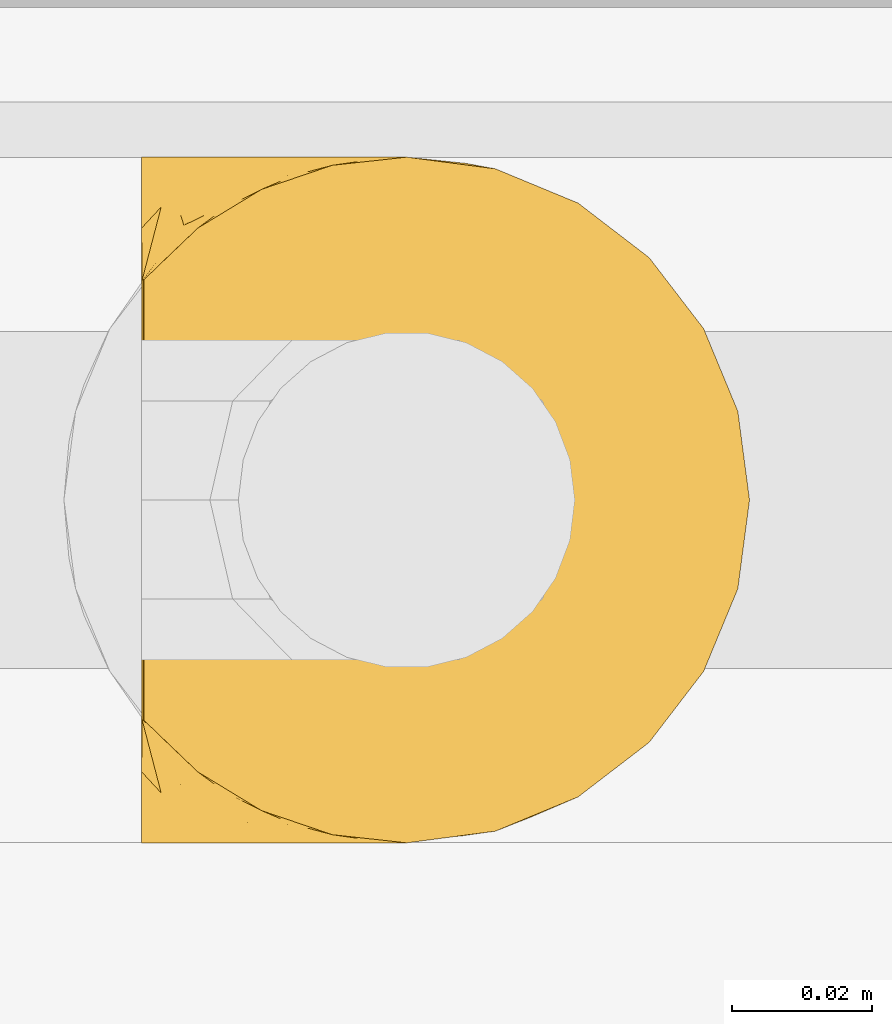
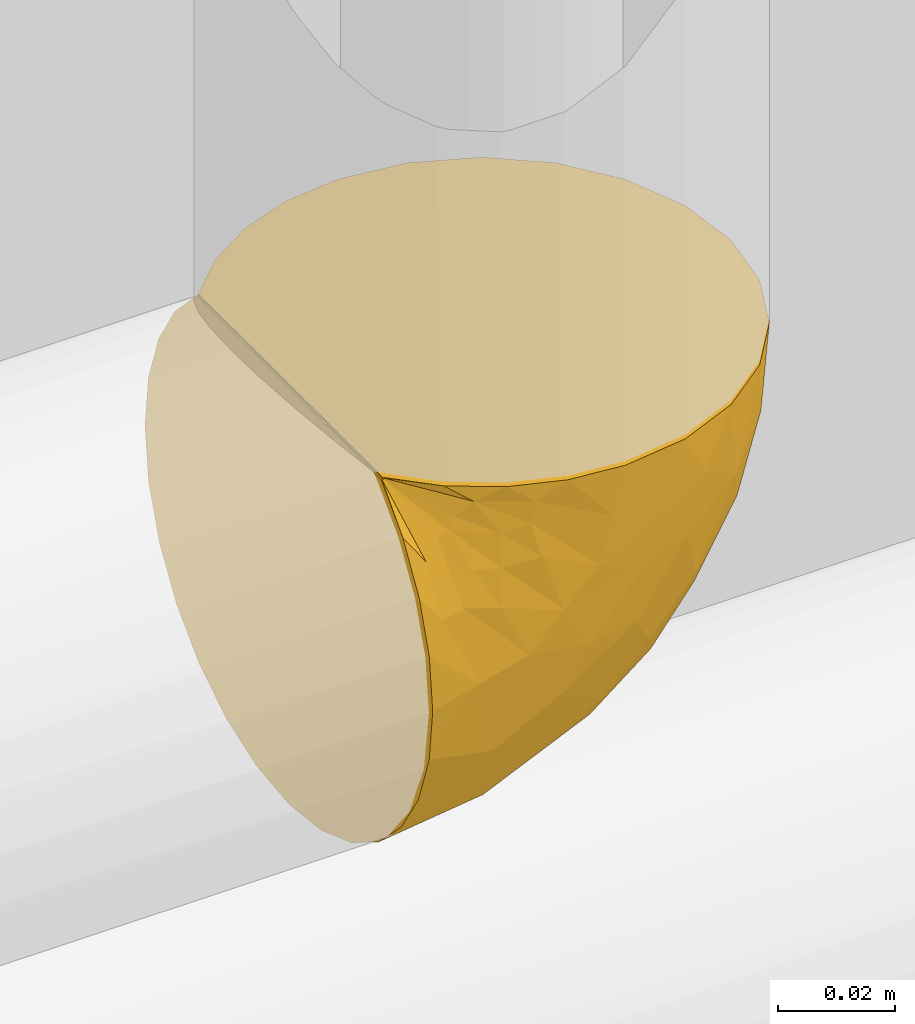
# One storey, part 58 of 94: 1 covering.
"""IFC2X3 building model written with IfcOpenShell, lengths in millimetres."""

from ifc_helpers import new_model, entity, si_unit, converted_unit, derived_unit, direction, frame, origin, place, context, subcontext, project, spatial, faceted_brep, material, element, save


model = new_model("IFC2X3")

# Units and contexts
model_context = context("Model", 3, precision=0.01, world=origin(), true_north=direction((6.123031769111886e-17, 1.0)))
body_context = subcontext(model_context, "Body", "Model", "MODEL_VIEW")
ifc_project = project(units=[si_unit("LENGTHUNIT", "METRE", prefix="MILLI"), si_unit("AREAUNIT", "SQUARE_METRE"), si_unit("VOLUMEUNIT", "CUBIC_METRE"), converted_unit("PLANEANGLEUNIT", "DEGREE", entity("IfcRatioMeasure", 0.017453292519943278), si_unit("PLANEANGLEUNIT", "RADIAN"), dimensions=[0, 0, 0, 0, 0, 0, 0]), si_unit("MASSUNIT", "GRAM", prefix="KILO"), derived_unit("MASSDENSITYUNIT", [(si_unit("MASSUNIT", "GRAM", prefix="KILO"), 1), (si_unit("LENGTHUNIT", "METRE"), -3)]), derived_unit("IONCONCENTRATIONUNIT", [(si_unit("MASSUNIT", "GRAM", prefix="KILO"), 1), (si_unit("LENGTHUNIT", "METRE"), -3)]), derived_unit("MOMENTOFINERTIAUNIT", [(si_unit("LENGTHUNIT", "METRE"), 4)]), si_unit("TIMEUNIT", "SECOND"), si_unit("FREQUENCYUNIT", "HERTZ"), si_unit("THERMODYNAMICTEMPERATUREUNIT", "DEGREE_CELSIUS"), derived_unit("THERMALTRANSMITTANCEUNIT", [(si_unit("MASSUNIT", "GRAM", prefix="KILO"), 1), (si_unit("THERMODYNAMICTEMPERATUREUNIT", "KELVIN"), -1), (si_unit("TIMEUNIT", "SECOND"), -3)]), derived_unit("THERMALCONDUCTANCEUNIT", [(si_unit("MASSUNIT", "GRAM", prefix="KILO"), 1), (si_unit("THERMODYNAMICTEMPERATUREUNIT", "KELVIN"), -1), (si_unit("TIMEUNIT", "SECOND"), -3), (si_unit("LENGTHUNIT", "METRE"), 1)]), derived_unit("VOLUMETRICFLOWRATEUNIT", [(si_unit("LENGTHUNIT", "METRE"), 3), (si_unit("TIMEUNIT", "SECOND"), -1)]), derived_unit("MASSFLOWRATEUNIT", [(si_unit("MASSUNIT", "GRAM", prefix="KILO"), 1), (si_unit("TIMEUNIT", "SECOND"), -1)]), derived_unit("ROTATIONALFREQUENCYUNIT", [(si_unit("TIMEUNIT", "SECOND"), -1)]), si_unit("ELECTRICCURRENTUNIT", "AMPERE"), si_unit("ELECTRICVOLTAGEUNIT", "VOLT"), si_unit("POWERUNIT", "WATT"), si_unit("FORCEUNIT", "NEWTON", prefix="KILO"), si_unit("ILLUMINANCEUNIT", "LUX"), si_unit("LUMINOUSFLUXUNIT", "LUMEN"), si_unit("LUMINOUSINTENSITYUNIT", "CANDELA"), derived_unit("USERDEFINED", [(si_unit("MASSUNIT", "GRAM", prefix="KILO"), -1), (si_unit("LENGTHUNIT", "METRE"), -2), (si_unit("TIMEUNIT", "SECOND"), 3), (si_unit("LUMINOUSFLUXUNIT", "LUMEN"), 1)]), derived_unit("USERDEFINED", [(si_unit("MASSUNIT", "GRAM", prefix="KILO"), 1), (si_unit("TIMEUNIT", "SECOND"), -3), (si_unit("LENGTHUNIT", "METRE"), 3), (si_unit("ELECTRICCURRENTUNIT", "AMPERE"), -2)]), derived_unit("SOUNDPOWERUNIT", [(si_unit("MASSUNIT", "GRAM", prefix="KILO"), 1), (si_unit("TIMEUNIT", "SECOND"), -3), (si_unit("LENGTHUNIT", "METRE"), 2)]), derived_unit("SOUNDPRESSUREUNIT", [(si_unit("MASSUNIT", "GRAM", prefix="KILO"), 1), (si_unit("LENGTHUNIT", "METRE"), -1), (si_unit("TIMEUNIT", "SECOND"), -2)]), derived_unit("LINEARVELOCITYUNIT", [(si_unit("LENGTHUNIT", "METRE"), 1), (si_unit("TIMEUNIT", "SECOND"), -1)]), si_unit("PRESSUREUNIT", "PASCAL"), derived_unit("USERDEFINED", [(si_unit("MASSUNIT", "GRAM", prefix="KILO"), 1), (si_unit("LENGTHUNIT", "METRE"), -2), (si_unit("TIMEUNIT", "SECOND"), -2)]), derived_unit("LINEARFORCEUNIT", [(si_unit("MASSUNIT", "GRAM", prefix="KILO"), 1), (si_unit("TIMEUNIT", "SECOND"), -2)]), derived_unit("PLANARFORCEUNIT", [(si_unit("MASSUNIT", "GRAM", prefix="KILO"), 1), (si_unit("LENGTHUNIT", "METRE"), -1), (si_unit("TIMEUNIT", "SECOND"), -2)]), derived_unit("SPECIFICHEATCAPACITYUNIT", [(si_unit("THERMODYNAMICTEMPERATUREUNIT", "KELVIN"), -1), (si_unit("LENGTHUNIT", "METRE"), 2), (si_unit("TIMEUNIT", "SECOND"), -2)]), derived_unit("HEATINGVALUEUNIT", [(si_unit("LENGTHUNIT", "METRE"), 2), (si_unit("TIMEUNIT", "SECOND"), -2)]), derived_unit("VAPORPERMEABILITYUNIT", [(si_unit("LENGTHUNIT", "METRE"), -1), (si_unit("TIMEUNIT", "SECOND"), 1)]), derived_unit("DYNAMICVISCOSITYUNIT", [(si_unit("MASSUNIT", "GRAM", prefix="KILO"), 1), (si_unit("TIMEUNIT", "SECOND"), -1), (si_unit("LENGTHUNIT", "METRE"), -1)]), derived_unit("THERMALEXPANSIONCOEFFICIENTUNIT", [(si_unit("THERMODYNAMICTEMPERATUREUNIT", "KELVIN"), -1)]), derived_unit("MODULUSOFELASTICITYUNIT", [(si_unit("MASSUNIT", "GRAM", prefix="KILO"), 1), (si_unit("LENGTHUNIT", "METRE"), -1), (si_unit("TIMEUNIT", "SECOND"), -2)]), derived_unit("ISOTHERMALMOISTURECAPACITYUNIT", [(si_unit("LENGTHUNIT", "METRE"), 3), (si_unit("MASSUNIT", "GRAM", prefix="KILO"), -1)]), derived_unit("MOISTUREDIFFUSIVITYUNIT", [(si_unit("TIMEUNIT", "SECOND"), -1), (si_unit("LENGTHUNIT", "METRE"), 2)])], contexts=[model_context])

# Site, building, storey
site_placement = place(None, origin())
site = spatial("IfcSite", under=ifc_project, at=site_placement, Name="Default", CompositionType="ELEMENT")
building_placement = place(site_placement, origin())
building = spatial("IfcBuilding", under=site, at=building_placement, CompositionType="ELEMENT")
storey_placement = place(building_placement, origin())
storey = spatial("IfcBuildingStorey", under=building, at=storey_placement, Name="Niveau 0", CompositionType="ELEMENT", Elevation=0.0)

# Covering
ifc_material = material(Name="Isolation - Laine minérale")
covering_placement = place(storey_placement, frame((-6348.767585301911, 9976.100352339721, 2699.254727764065)))
element("IfcCovering", 1, at=covering_placement, inside=storey, material=ifc_material, Name="Isolation des canalisations:Laine minérale", ObjectType="Isolation des canalisations:Laine minérale", PredefinedType="INSULATION", context=body_context, shape_type="Brep", body=[
    faceted_brep([(1.5952722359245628, 95.02415814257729, 29.41213456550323), (1.5952722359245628, 89.1663101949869, 20.0932520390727), (1.5952722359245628, 81.38263886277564, 12.312548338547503), (1.5952722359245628, 72.06354573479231, 6.459227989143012), (1.5952722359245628, 61.67593083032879, 2.826140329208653), (1.5952722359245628, 50.74527223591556, 1.5952722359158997), (1.5952722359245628, 39.80290363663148, 2.828812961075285), (1.5952722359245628, 29.412134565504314, 6.466386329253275), (1.5952722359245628, 20.093252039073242, 12.324234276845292), (1.5952722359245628, 12.312548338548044, 20.10790560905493), (1.5952722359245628, 6.459227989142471, 29.426998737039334), (1.5952722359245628, 2.826140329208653, 39.814613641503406), (1.5952722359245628, 1.5952722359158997, 50.7452722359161), (1.5952722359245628, 2.765001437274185, 61.40435822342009), (1.5952722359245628, 6.216868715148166, 71.55257335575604), (1.5952722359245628, 11.785042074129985, 80.70896636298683), (1.5952722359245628, 19.19437336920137, 88.43165280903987), (1.5952722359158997, 21.638642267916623, 88.43165280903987), (1.5952722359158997, 23.415694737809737, 88.43165280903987), (1.5952722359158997, 25.192747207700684, 88.43165280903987), (1.5952722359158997, 26.692340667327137, 88.43165280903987), (1.5952722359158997, 28.191934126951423, 88.43165280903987), (1.5952722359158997, 31.191121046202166, 88.43165280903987), (1.5952722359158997, 34.19030796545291, 88.43165280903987), (1.5952722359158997, 37.18949488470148, 88.43165280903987), (1.5952722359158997, 40.18868180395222, 88.43165280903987), (1.5952722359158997, 41.68827526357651, 88.43165280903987), (1.5952722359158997, 43.1878687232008, 88.43165280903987), (1.5952722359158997, 45.63213762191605, 88.43165280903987), (1.5952722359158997, 48.07640652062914, 88.43165280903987), (1.5952722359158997, 50.5206754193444, 88.43165280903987), (1.5952722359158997, 52.96494431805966, 88.43165280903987), (1.5952722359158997, 55.40921321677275, 88.43165280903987), (1.5952722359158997, 57.853482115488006, 88.43165280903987), (1.5952722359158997, 60.2977510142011, 88.43165280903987), (1.5952722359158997, 62.742019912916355, 88.43165280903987), (1.5952722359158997, 65.18628881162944, 88.43165280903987), (1.5952722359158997, 67.6305577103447, 88.43165280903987), (1.5952722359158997, 70.0748266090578, 88.43165280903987), (1.5952722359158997, 72.51909550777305, 88.43165280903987), (1.5952722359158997, 74.96336440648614, 88.43165280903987), (1.5952722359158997, 77.4076333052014, 88.43165280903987), (1.5952722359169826, 79.85190220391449, 88.43165280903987), (1.5952722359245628, 82.29617110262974, 88.43165280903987), (1.5952722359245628, 89.71827412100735, 80.6923526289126), (1.5952722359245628, 95.28368576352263, 71.53113811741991), (1.5952722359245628, 98.73008326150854, 61.38390047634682), (1.5952722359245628, 99.89527223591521, 50.74527223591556), (1.5952722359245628, 98.66173151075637, 39.80290363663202), (9.641963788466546, 11.777056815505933, 88.74527223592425), (18.798688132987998, 6.211862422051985, 88.74527223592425), (28.94385431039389, 2.7632985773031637, 88.74527223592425), (39.59527223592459, 1.5952722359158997, 88.74527223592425), (52.31622830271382, 3.270017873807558, 88.74527223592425), (64.17027223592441, 8.18012363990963, 88.74527223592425), (74.34957053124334, 15.990973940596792, 88.74527223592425), (82.16042083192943, 26.170272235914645, 88.74527223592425), (87.07052659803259, 38.02431616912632, 88.74527223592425), (88.74527223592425, 50.74527223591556, 88.74527223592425), (87.07052659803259, 63.46622830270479, 88.74527223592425), (82.16042083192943, 75.3202722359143, 88.74527223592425), (74.34957053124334, 85.49957053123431, 88.74527223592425), (64.17027223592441, 93.31042083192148, 88.74527223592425), (52.31622830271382, 98.22052659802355, 88.74527223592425), (39.59527223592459, 99.89527223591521, 88.74527223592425), (28.94385431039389, 98.72724589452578, 88.74527223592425), (18.798688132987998, 95.27868204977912, 88.74527223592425), (9.641963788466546, 89.71348765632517, 88.74527223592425), (1.908891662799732, 82.29617110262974, 88.74527223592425), (1.908891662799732, 79.85190220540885, 88.74527223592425), (1.908891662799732, 78.3523087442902, 88.74527223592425), (1.908891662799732, 76.3803775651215, 88.74527223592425), (1.908891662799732, 74.40844638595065, 88.74527223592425), (1.908891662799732, 72.43651520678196, 88.74527223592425), (1.908891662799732, 70.46458402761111, 88.74527223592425), (1.908891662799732, 68.49265284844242, 88.74527223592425), (1.908891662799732, 66.52072166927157, 88.74527223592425), (1.908891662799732, 64.54879049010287, 88.74527223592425), (1.908891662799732, 62.57685931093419, 88.74527223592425), (1.908891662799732, 60.60492813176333, 88.74527223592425), (1.908891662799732, 58.632996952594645, 88.74527223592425), (1.908891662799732, 56.661065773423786, 88.74527223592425), (1.908891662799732, 54.6891345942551, 88.74527223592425), (1.908891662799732, 52.71720341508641, 88.74527223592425), (1.908891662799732, 50.74527223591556, 88.74527223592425), (1.908891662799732, 48.773341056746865, 88.74527223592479), (1.908891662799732, 46.80140987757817, 88.74527223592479), (1.908891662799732, 44.82947869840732, 88.74527223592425), (1.908891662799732, 42.85754751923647, 88.74527223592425), (1.908891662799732, 40.88561634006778, 88.74527223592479), (1.908891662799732, 38.913685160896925, 88.74527223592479), (1.908891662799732, 36.94175398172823, 88.74527223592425), (1.908891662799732, 34.96982280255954, 88.74527223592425), (1.908891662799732, 31.97063588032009, 88.74527223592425), (1.908891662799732, 28.971448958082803, 88.74527223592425), (1.9088916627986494, 26.527180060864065, 88.74527223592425), (1.908891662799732, 24.082911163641, 88.74527223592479), (1.908891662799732, 21.638642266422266, 88.74527223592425), (1.908891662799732, 19.19437336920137, 88.74527223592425), (1.8241875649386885, 53.75333970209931, 88.53090125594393), (1.815624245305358, 51.832765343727, 88.52210831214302), (1.8147227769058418, 61.47290163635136, 88.52122178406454), (1.8212241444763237, 63.562825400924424, 88.5277799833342), (1.8331787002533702, 48.00102702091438, 88.54092532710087), (1.828016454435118, 77.2499939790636, 88.5350645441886), (1.7792781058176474, 80.69913834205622, 88.49130573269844), (1.8114926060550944, 42.43807145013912, 88.51810292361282), (1.8170346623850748, 22.860776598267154, 88.52350981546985), (1.81898896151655, 24.70021643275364, 88.52548149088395), (1.8098308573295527, 71.3700895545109, 88.51653277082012), (1.820221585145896, 73.40383885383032, 88.52674320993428), (1.796462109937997, 44.410002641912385, 88.5046900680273), (1.8230063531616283, 37.92771907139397, 88.52964682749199), (1.8262968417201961, 39.81308540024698, 88.5331760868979), (1.8091041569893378, 35.95578792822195, 88.51585328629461), (1.8225274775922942, 49.75930651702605, 88.52914218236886), (1.817034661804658, 79.10210557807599, 88.52350981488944), (1.8194169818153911, 21.02757498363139, 88.52591800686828), (1.8294378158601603, 55.67510065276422, 88.5366490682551), (1.8301744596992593, 67.50668767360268, 88.5374788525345), (1.82588831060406, 65.61454699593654, 88.5327319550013), (1.8272900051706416, 34.104580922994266, 88.53426299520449), (1.8267767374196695, 57.55217518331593, 88.53370000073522), (1.8278964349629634, 75.39441218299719, 88.53493173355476), (1.8170346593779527, 82.29617110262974, 88.52350981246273), (1.747915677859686, 82.29617110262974, 88.49487979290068), (1.6787966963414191, 82.29617110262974, 88.46624977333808), (1.8170346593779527, 19.19437336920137, 88.52350981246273), (1.8456646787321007, 19.19437336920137, 88.59262879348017), (1.8742946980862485, 19.19437336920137, 88.66174777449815), (1.802653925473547, 32.212157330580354, 88.51000647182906), (1.8237404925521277, 69.4355922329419, 88.5304248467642), (1.8159875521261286, 46.248287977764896, 88.52246762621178), (1.8182226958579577, 59.49061335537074, 88.52470424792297), (1.7977740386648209, 29.41925201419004, 88.50579329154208), (1.8208977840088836, 27.44213716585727, 88.52744143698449), (1.8742946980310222, 82.29617110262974, 88.66174777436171), (1.8456646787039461, 82.29617110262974, 88.59262879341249), (1.6787966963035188, 19.19437336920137, 88.46624977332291), (1.7479156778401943, 19.19437336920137, 88.49487979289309), (23.495219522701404, 4.210283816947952, 85.22080157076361), (13.747756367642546, 8.744179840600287, 85.93611072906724), (22.409779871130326, 4.210283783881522, 81.07807843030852), (10.562522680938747, 9.955583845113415, 83.13289242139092), (37.049754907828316, 1.5952722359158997, 79.24527223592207), (37.59734391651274, 1.5952722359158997, 81.28890223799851), (20.595272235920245, 1.5952722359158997, 55.83630689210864), (16.020149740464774, 2.93549782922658, 66.39553001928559), (9.261677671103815, 4.213452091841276, 67.94040403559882), (34.50423757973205, 1.5952722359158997, 69.7452722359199), (9.66789749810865, 9.405305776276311, 80.67378389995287), (7.202912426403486, 9.963487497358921, 79.7889209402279), (23.94474674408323, 2.9356418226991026, 74.32109358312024), (5.119390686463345, 4.213452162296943, 66.85470593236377), (4.402893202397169, 8.750654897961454, 76.6033636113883), (17.541506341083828, 5.690627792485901, 79.64911936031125), (9.051642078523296, 1.5952722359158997, 52.74320051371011), (11.095272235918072, 1.5952722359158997, 53.290789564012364), (16.72885944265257, 4.482619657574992, 73.61168493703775), (27.549754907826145, 1.5952722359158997, 62.790789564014), (12.071559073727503, 5.766057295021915, 73.87988529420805), (47.62395095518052, 2.6117250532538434, 75.32913676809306), (44.00144112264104, 2.657531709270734, 65.9107418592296), (58.899698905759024, 11.131578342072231, 53.84761415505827), (72.66771487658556, 20.824647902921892, 59.13651173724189), (67.20155656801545, 11.7519547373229, 71.16612245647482), (54.07984229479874, 5.336592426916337, 67.00545271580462), (57.54110754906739, 5.33659286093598, 78.88051287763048), (72.10110329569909, 50.74527223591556, 37.51978749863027), (84.47984763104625, 50.74527223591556, 61.81444117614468), (80.24801351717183, 40.339739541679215, 53.87520138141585), (13.851436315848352, 9.12424327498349, 25.78494399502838), (15.165285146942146, 4.351045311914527, 36.244182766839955), (60.7776584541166, 32.64695426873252, 29.562882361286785), (55.385836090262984, 23.768909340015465, 30.770681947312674), (43.89737524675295, 35.61531809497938, 15.292222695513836), (86.12648113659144, 41.696133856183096, 71.31385843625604), (73.23168363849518, 30.50981773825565, 47.24102741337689), (64.74738573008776, 21.748430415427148, 43.50389303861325), (77.40373146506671, 20.824647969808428, 75.289852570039), (82.14716981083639, 31.9363827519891, 67.10273039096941), (52.82911549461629, 15.984346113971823, 37.099200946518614), (48.878965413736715, 9.509703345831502, 44.515176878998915), (40.607220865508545, 11.405769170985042, 33.70477633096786), (28.76995319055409, 3.723532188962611, 44.051694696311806), (27.448445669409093, 9.124242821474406, 30.044081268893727), (19.800365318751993, 15.984347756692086, 18.31233818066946), (28.52610329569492, 50.74527223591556, 5.860696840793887), (22.71562192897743, 34.50535109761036, 7.041406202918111), (42.31748570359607, 18.53593481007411, 25.61446965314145), (33.68382770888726, 24.588194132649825, 15.886915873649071), (16.806973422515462, 24.58819389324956, 10.600409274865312), (71.07858054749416, 39.07585882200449, 38.50378416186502), (60.332491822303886, 42.346184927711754, 25.34518062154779), (33.37332146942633, 2.563252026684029, 53.16350413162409), (52.82075697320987, 50.74527223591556, 18.23944117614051), (43.46542968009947, 4.72244931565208, 52.69469876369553), (79.20017463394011, 69.55416102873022, 58.175892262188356), (86.24488809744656, 59.5851078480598, 71.70091272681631), (80.83807017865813, 59.865425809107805, 54.574333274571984), (72.52816019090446, 66.13789702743, 42.49805076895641), (83.87397883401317, 69.55416221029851, 75.06235489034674), (35.798660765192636, 85.49332197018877, 24.525141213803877), (48.02046276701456, 78.98858976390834, 25.78634265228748), (33.68736739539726, 76.88743080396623, 15.878231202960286), (52.83844921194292, 85.49294527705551, 37.089792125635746), (59.75598123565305, 78.28666517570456, 35.71336208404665), (15.17001623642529, 97.13479117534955, 36.23150879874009), (45.55141709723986, 98.95303587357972, 70.53804152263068), (34.50423757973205, 99.89527223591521, 69.7452722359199), (37.049754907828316, 99.89527223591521, 79.24527223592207), (22.71467774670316, 66.97173870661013, 7.036299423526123), (76.07714087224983, 80.665896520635, 69.24086116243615), (27.45465165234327, 92.35692696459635, 30.030512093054), (13.854008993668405, 92.35692651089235, 25.770245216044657), (68.47065883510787, 89.73858944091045, 76.87540408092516), (56.45843349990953, 96.15395178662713, 74.00473445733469), (68.08854506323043, 79.62483877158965, 48.41047025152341), (64.29272071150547, 89.7385902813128, 62.62553049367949), (66.01125638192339, 59.508159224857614, 31.22077674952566), (60.78019542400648, 68.83452868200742, 29.560345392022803), (48.01911236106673, 99.01263503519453, 79.82666983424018), (16.809109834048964, 76.88743104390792, 10.591274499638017), (43.900853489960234, 65.85652255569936, 15.287247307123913), (19.80368192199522, 85.49294363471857, 18.299506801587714), (28.786726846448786, 97.76388503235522, 44.049870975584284), (20.595272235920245, 99.89527223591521, 55.83630689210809), (35.48506655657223, 98.78930951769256, 54.23536248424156), (27.549754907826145, 99.89527223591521, 62.790789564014), (9.051642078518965, 99.89527223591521, 52.74320051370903), (11.095272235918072, 99.89527223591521, 53.290789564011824), (53.16291239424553, 91.50386042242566, 48.41211537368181), (52.0530845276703, 96.4268312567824, 64.14304703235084), (41.401037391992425, 93.14991945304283, 40.10640265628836), (40.721221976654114, 99.08337182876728, 62.89073418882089), (60.91677547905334, 86.09107557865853, 47.67277833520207), (45.94061161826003, 96.67816905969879, 55.38955823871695), (22.409778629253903, 97.28026029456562, 81.0780784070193), (16.46425424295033, 95.72662397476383, 78.26566497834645), (23.943292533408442, 98.55465842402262, 74.32072912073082), (23.495218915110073, 97.28026045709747, 85.22080145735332), (13.74775580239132, 92.74636428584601, 85.93611080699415), (10.56486790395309, 91.53641117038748, 83.1325723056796), (7.656624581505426, 90.11275627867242, 82.68198005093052), (16.72348133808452, 97.0051951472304, 73.61706381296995), (7.216517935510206, 91.54965419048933, 79.75777141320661), (9.263185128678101, 97.2842704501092, 67.91845358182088), (5.119593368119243, 97.28427059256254, 66.83334757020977), (4.405878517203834, 92.75147496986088, 76.58449008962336), (16.01862728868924, 98.55441347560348, 66.39770760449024), (10.692146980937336, 95.80583125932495, 72.78382599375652)], [[[0, 1, 2, 3, 4, 5, 6, 7, 8, 9, 10, 11, 12, 13, 14, 15, 16, 17, 18, 19, 20, 21, 22, 23, 24, 25, 26, 27, 28, 29, 30, 31, 32, 33, 34, 35, 36, 37, 38, 39, 40, 41, 42, 43, 44, 45, 46, 47, 48]], [[49, 50, 51, 52, 53, 54, 55, 56, 57, 58, 59, 60, 61, 62, 63, 64, 65, 66, 67, 68, 69, 70, 71, 72, 73, 74, 75, 76, 77, 78, 79, 80, 81, 82, 83, 84, 85, 86, 87, 88, 89, 90, 91, 92, 93, 94, 95, 96, 97, 98]], [[99, 100, 83]], [[101, 102, 35]], [[85, 103, 86]], [[71, 70, 104]], [[105, 69, 68]], [[27, 26, 106]], [[18, 107, 108]], [[109, 73, 110]], [[28, 27, 111]], [[25, 112, 113]], [[108, 96, 95]], [[114, 92, 91]], [[103, 85, 115]], [[96, 107, 97]], [[116, 70, 69]], [[107, 17, 117]], [[78, 102, 101]], [[99, 118, 32]], [[76, 119, 120]], [[121, 92, 114]], [[112, 90, 113]], [[88, 111, 106]], [[40, 39, 110]], [[107, 96, 108]], [[32, 118, 122]], [[91, 90, 112]], [[37, 120, 119]], [[84, 115, 85]], [[69, 105, 116]], [[71, 123, 72]], [[105, 124, 125, 126, 43]], [[117, 17, 16]], [[41, 116, 42]], [[117, 127, 128, 129, 98]], [[110, 123, 40]], [[42, 116, 105]], [[121, 23, 130]], [[24, 114, 112]], [[114, 24, 23]], [[104, 123, 71]], [[91, 112, 114]], [[104, 116, 41]], [[24, 112, 25]], [[110, 72, 123]], [[36, 120, 37]], [[40, 123, 41]], [[74, 73, 109]], [[131, 75, 74]], [[119, 131, 37]], [[109, 110, 39]], [[109, 39, 38]], [[73, 72, 110]], [[123, 104, 41]], [[116, 104, 70]], [[26, 25, 113]], [[113, 89, 106]], [[87, 86, 132]], [[113, 106, 26]], [[76, 75, 119]], [[132, 111, 87]], [[106, 111, 27]], [[132, 28, 111]], [[87, 111, 88]], [[88, 106, 89]], [[113, 90, 89]], [[131, 119, 75]], [[38, 37, 131]], [[120, 36, 102]], [[131, 109, 38]], [[109, 131, 74]], [[78, 77, 102]], [[77, 120, 102]], [[77, 76, 120]], [[122, 80, 133]], [[36, 35, 102]], [[33, 122, 133]], [[79, 78, 101]], [[34, 101, 35]], [[132, 29, 28]], [[80, 79, 133]], [[29, 103, 115]], [[30, 29, 115]], [[86, 103, 132]], [[100, 115, 84]], [[31, 30, 100]], [[115, 100, 30]], [[32, 31, 99]], [[118, 81, 122]], [[100, 84, 83]], [[99, 82, 118]], [[81, 118, 82]], [[33, 32, 122]], [[82, 99, 83]], [[100, 99, 31]], [[34, 33, 133]], [[122, 81, 80]], [[133, 101, 34]], [[101, 133, 79]], [[134, 94, 93]], [[23, 121, 114]], [[132, 103, 29]], [[121, 93, 92]], [[93, 121, 130]], [[97, 107, 117]], [[108, 20, 19, 18]], [[21, 135, 134]], [[20, 135, 21]], [[134, 135, 94]], [[108, 95, 135]], [[108, 135, 20]], [[135, 95, 94]], [[134, 22, 21]], [[130, 22, 134]], [[42, 105, 43]], [[105, 68, 136, 137, 124]], [[97, 117, 98]], [[117, 16, 138, 139, 127]], [[18, 17, 107]], [[93, 130, 134]], [[22, 130, 23]], [[140, 141, 142]], [[143, 129, 128, 127]], [[51, 144, 145, 52]], [[146, 147, 148]], [[142, 149, 144]], [[150, 127, 151]], [[50, 140, 51]], [[142, 152, 149]], [[51, 140, 144]], [[129, 143, 141]], [[14, 13, 153]], [[148, 151, 154]], [[155, 141, 143]], [[151, 138, 154]], [[14, 153, 154]], [[16, 15, 138]], [[13, 12, 156, 157]], [[152, 155, 158]], [[159, 158, 147]], [[157, 148, 153]], [[14, 154, 15]], [[49, 98, 129]], [[49, 129, 141]], [[141, 50, 49]], [[160, 148, 147]], [[146, 148, 157]], [[138, 15, 154]], [[150, 158, 155]], [[151, 127, 139, 138]], [[141, 140, 50]], [[144, 140, 142]], [[157, 153, 13]], [[154, 153, 148]], [[149, 152, 159]], [[160, 147, 158]], [[147, 146, 159]], [[155, 152, 142]], [[159, 152, 158]], [[127, 150, 143]], [[160, 150, 151]], [[150, 160, 158]], [[148, 160, 151]], [[141, 155, 142]], [[155, 143, 150]], [[156, 12, 11]], [[161, 149, 162]], [[163, 164, 165]], [[166, 167, 161]], [[168, 169, 170]], [[54, 165, 55]], [[171, 172, 10]], [[173, 174, 175]], [[57, 176, 58]], [[173, 177, 178]], [[179, 56, 55]], [[54, 167, 165]], [[170, 180, 177]], [[56, 179, 180]], [[167, 54, 53]], [[181, 182, 183]], [[184, 146, 172]], [[172, 185, 184]], [[186, 185, 171]], [[186, 9, 8]], [[172, 146, 157, 156]], [[172, 11, 10]], [[173, 178, 174]], [[6, 187, 188]], [[189, 186, 190]], [[191, 186, 8]], [[175, 190, 188]], [[168, 192, 193]], [[189, 190, 174]], [[56, 180, 57]], [[8, 7, 191]], [[188, 7, 6]], [[6, 5, 187]], [[190, 191, 188]], [[159, 194, 162]], [[175, 187, 195]], [[177, 180, 164]], [[10, 9, 171]], [[176, 180, 170]], [[156, 11, 172]], [[163, 165, 166]], [[179, 165, 164]], [[53, 52, 145]], [[185, 189, 183]], [[184, 196, 194]], [[188, 191, 7]], [[186, 191, 190]], [[186, 171, 9]], [[172, 171, 185]], [[187, 175, 188]], [[193, 175, 195]], [[196, 163, 166]], [[163, 181, 178]], [[162, 166, 161]], [[184, 185, 183]], [[178, 177, 164]], [[177, 192, 170]], [[177, 173, 192]], [[176, 170, 169]], [[58, 176, 169]], [[57, 180, 176]], [[193, 192, 173]], [[168, 170, 192]], [[175, 193, 173]], [[168, 193, 195]], [[163, 178, 164]], [[184, 194, 146]], [[178, 181, 174]], [[189, 174, 181]], [[175, 174, 190]], [[183, 189, 181]], [[186, 189, 185]], [[182, 181, 163]], [[183, 182, 184]], [[163, 196, 182]], [[184, 182, 196]], [[165, 179, 55]], [[180, 179, 164]], [[161, 53, 145]], [[165, 167, 166]], [[53, 161, 167]], [[161, 145, 144, 149]], [[159, 162, 149]], [[196, 166, 162]], [[162, 194, 196]], [[146, 194, 159]], [[197, 198, 199]], [[58, 169, 198]], [[197, 199, 200]], [[198, 197, 201]], [[202, 203, 204]], [[60, 59, 201]], [[205, 206, 203]], [[0, 48, 207]], [[208, 209, 210]], [[187, 4, 211]], [[201, 212, 60]], [[213, 214, 207]], [[61, 215, 62]], [[62, 215, 216]], [[3, 211, 4]], [[217, 218, 212]], [[219, 220, 200]], [[216, 208, 221]], [[3, 2, 222]], [[62, 216, 63]], [[61, 60, 212]], [[211, 3, 222]], [[5, 4, 187]], [[217, 197, 200]], [[203, 223, 204]], [[2, 1, 224]], [[225, 213, 207]], [[204, 222, 224]], [[1, 0, 214]], [[204, 224, 202]], [[207, 226, 225]], [[227, 226, 228]], [[223, 211, 204]], [[214, 224, 1]], [[202, 224, 213]], [[48, 47, 229]], [[207, 229, 230, 226]], [[211, 223, 187]], [[218, 231, 232]], [[48, 229, 207]], [[205, 233, 231]], [[233, 213, 225]], [[217, 212, 197]], [[215, 212, 218]], [[228, 234, 227]], [[233, 205, 202]], [[208, 234, 209]], [[63, 221, 64]], [[235, 205, 231]], [[207, 214, 0]], [[224, 214, 213]], [[224, 222, 2]], [[211, 222, 204]], [[219, 223, 220]], [[187, 223, 195]], [[227, 233, 225]], [[234, 228, 209]], [[231, 233, 236]], [[221, 208, 210]], [[232, 208, 216]], [[64, 221, 210]], [[216, 221, 63]], [[233, 202, 213]], [[203, 202, 205]], [[205, 235, 206]], [[223, 203, 220]], [[200, 206, 217]], [[220, 203, 206]], [[232, 231, 236]], [[235, 218, 217]], [[212, 215, 61]], [[216, 215, 218]], [[218, 232, 216]], [[234, 232, 236]], [[232, 234, 208]], [[234, 236, 227]], [[233, 227, 236]], [[226, 227, 225]], [[198, 201, 59]], [[212, 201, 197]], [[58, 198, 59]], [[198, 169, 199]], [[169, 168, 199]], [[219, 200, 199]], [[219, 199, 168]], [[200, 220, 206]], [[168, 195, 219]], [[223, 219, 195]], [[218, 235, 231]], [[206, 235, 217]], [[65, 64, 210]], [[209, 237, 210]], [[238, 237, 239]], [[66, 240, 241]], [[242, 136, 241]], [[243, 137, 242]], [[243, 244, 245]], [[65, 240, 66]], [[136, 68, 67]], [[136, 67, 241]], [[246, 226, 230]], [[66, 241, 67]], [[210, 237, 240]], [[45, 247, 46]], [[209, 239, 237]], [[246, 247, 248]], [[46, 247, 230]], [[249, 250, 244]], [[239, 228, 244]], [[226, 246, 249]], [[250, 248, 245]], [[44, 43, 126]], [[237, 242, 241]], [[248, 45, 44]], [[44, 126, 248]], [[46, 230, 229, 47]], [[245, 126, 125]], [[126, 245, 248]], [[243, 124, 137]], [[210, 240, 65]], [[241, 240, 237]], [[248, 247, 45]], [[230, 247, 246]], [[226, 249, 228]], [[238, 239, 244]], [[239, 209, 228]], [[250, 249, 246]], [[228, 249, 244]], [[243, 242, 238]], [[136, 242, 137]], [[124, 243, 125]], [[125, 243, 245]], [[243, 238, 244]], [[237, 238, 242]], [[248, 250, 246]], [[244, 250, 245]]]),
])

save(model, "model.ifc")
